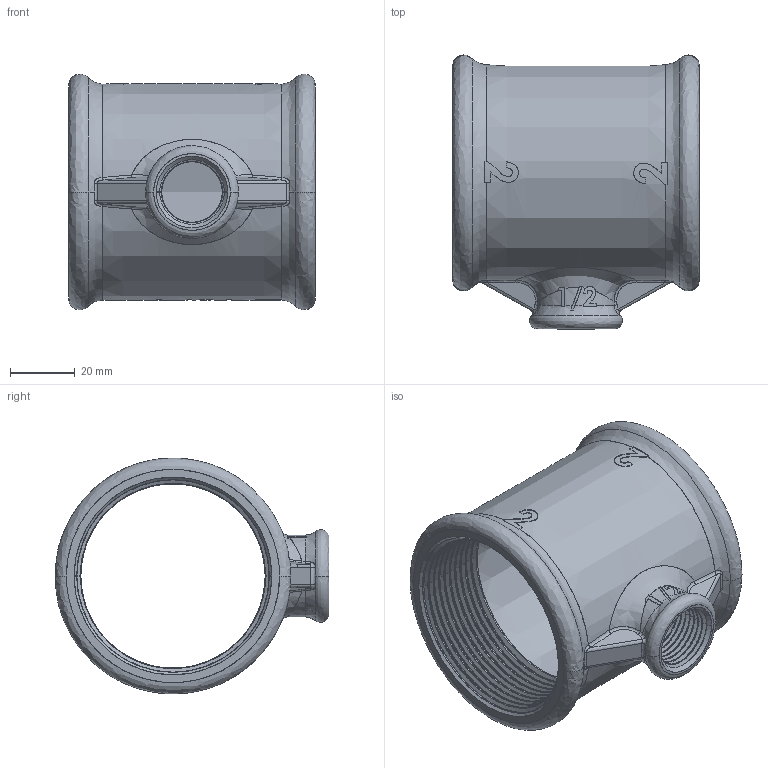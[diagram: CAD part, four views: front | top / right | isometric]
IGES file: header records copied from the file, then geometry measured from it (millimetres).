
Start section: SolidWorks IGES file using analytic representation for surfaces
Global section: file name: C:\Users\Joel Rosa\Desktop\Tubulação\12-45-XXX\12-45-043.IGS; native system: SolidWorks 2011; preprocessor: SolidWorks 2011; author: Joel Rosa; date: 121212.234127; units: millimetre
Bounding box: 76 x 84.3 x 72.58 mm (x, y, z)
Surface area: 40994.8 mm2 (no closed solid volume)
Topology: 0 solids, 0 shells, 483 faces, 4545 edges, 4545 vertices
Faces by surface type: bspline 338, revolution 145
